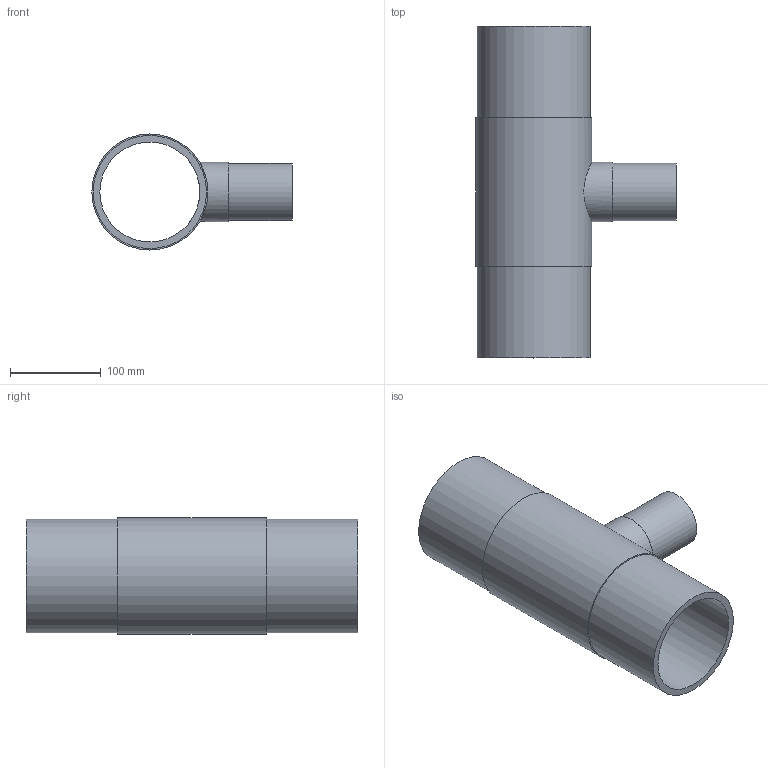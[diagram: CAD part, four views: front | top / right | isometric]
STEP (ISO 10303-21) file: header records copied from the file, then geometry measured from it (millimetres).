
FILE_DESCRIPTION(('Beschreibung'),'1');
FILE_NAME('V:/Ziel/25.20.01.063_red._SDR_17_PE100_125_063_125.STP', '2014-09-15T06:03:37',('Author'), ('Organization'), 'KCM Version 1.1.794.0', 'Kubotek KeyCreator', 'Authorization');
FILE_SCHEMA(('CONFIG_CONTROL_DESIGN'));
Length unit declared in the file: millimetre
Bounding box: 220.98 x 366 x 127.96 mm (x, y, z)
Volume: 1184954.1 mm3; surface area: 310713.8 mm2
Topology: 1 solids, 1 shells, 13 faces, 40 edges, 47 vertices
Faces by surface type: cylinder 7, plane 6
Full cylindrical faces by diameter (mm): 51.4 x1, 63 x1, 65.32 x1, 110.2 x1, 125 x2, 127.96 x1
Entity records: 750 total; most frequent: CARTESIAN_POINT 327, DIRECTION 77, ORIENTED_EDGE 48, AXIS2_PLACEMENT_3D 28, EDGE_CURVE 24, VECTOR 21, LINE 21, EDGE_LOOP 21
